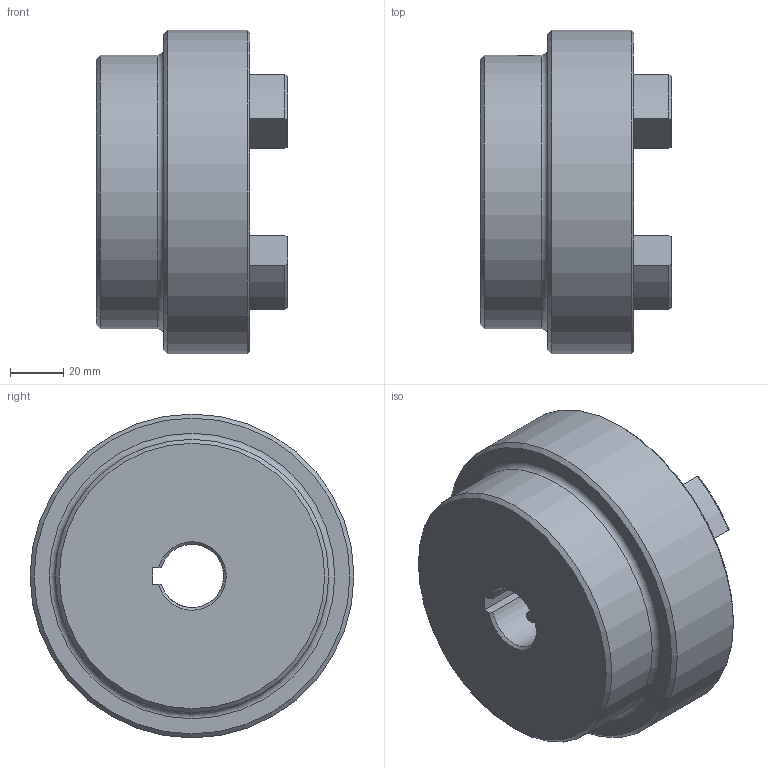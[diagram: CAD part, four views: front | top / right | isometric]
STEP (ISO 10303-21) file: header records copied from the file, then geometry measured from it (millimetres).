
FILE_DESCRIPTION (( 'STEP AP203' ), '1' );
FILE_NAME ('RC5.step', '2024-07-25T13:21:34', ( 'Adlan' ), ( '' ), 'SwSTEP 2.0', 'SolidWorks 2013', '' );
FILE_SCHEMA (( 'CONFIG_CONTROL_DESIGN' ));
Length unit declared in the file: inch
Products named in the file (1): RC5
Bounding box: 72.14 x 122.17 x 122.17 mm (x, y, z)
Volume: 458827.6 mm3; surface area: 59293 mm2
Topology: 1 solids, 1 shells, 83 faces, 210 edges, 131 vertices
Faces by surface type: cylinder 33, plane 19, torus 17, cone 14
Full cylindrical faces by diameter (mm): 5.105 x2, 103.124 x1, 122.174 x1
Entity records: 2755 total; most frequent: CARTESIAN_POINT 674, DIRECTION 446, ORIENTED_EDGE 394, EDGE_CURVE 197, AXIS2_PLACEMENT_3D 178, VERTEX_POINT 128, EDGE_LOOP 101, CIRCLE 94
